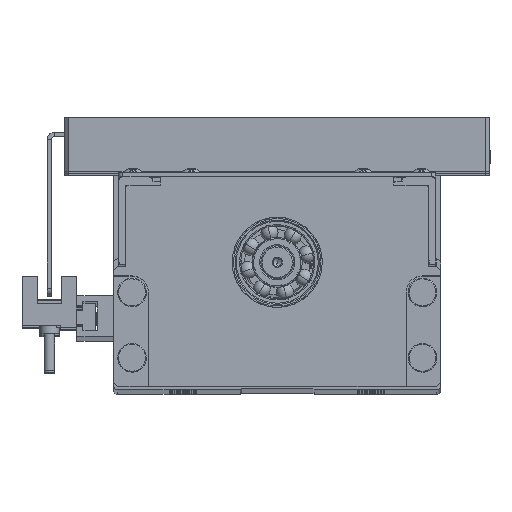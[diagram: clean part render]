
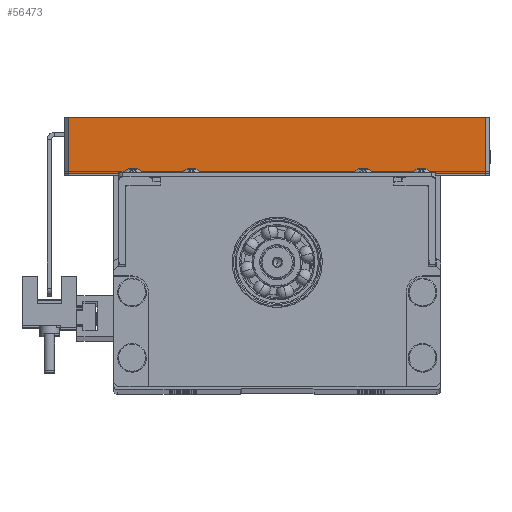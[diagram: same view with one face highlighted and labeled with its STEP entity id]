
A CAD part, top view. The second image highlights one B-rep face of the part: STEP entity #56473.
In plain terms, the highlighted planar face has unit normal (0, 0, 1).
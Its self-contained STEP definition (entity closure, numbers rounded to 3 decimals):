
#775 = DIRECTION ( 'NONE',  ( 0., -1., 0. ) ) ;
#3564 = VECTOR ( 'NONE', #25573, 1000. ) ;
#7272 = CARTESIAN_POINT ( 'NONE',  ( 52., 68., 50. ) ) ;
#7422 = LINE ( 'NONE', #69017, #69224 ) ;
#7822 = ORIENTED_EDGE ( 'NONE', *, *, #43400, .T. ) ;
#10990 = DIRECTION ( 'NONE',  ( 1., 0., 0. ) ) ;
#12375 = EDGE_CURVE ( 'NONE', #70837, #23631, #25999, .T. ) ;
#12701 = ORIENTED_EDGE ( 'NONE', *, *, #12375, .F. ) ;
#18964 = FACE_OUTER_BOUND ( 'NONE', #79105, .T. ) ;
#22938 = VERTEX_POINT ( 'NONE', #85678 ) ;
#23631 = VERTEX_POINT ( 'NONE', #78269 ) ;
#24106 = ORIENTED_EDGE ( 'NONE', *, *, #29616, .F. ) ;
#24412 = VERTEX_POINT ( 'NONE', #42604 ) ;
#25573 = DIRECTION ( 'NONE',  ( -1., 0., 0. ) ) ;
#25999 = LINE ( 'NONE', #86213, #3564 ) ;
#29616 = EDGE_CURVE ( 'NONE', #24412, #22938, #39717, .T. ) ;
#36834 = CARTESIAN_POINT ( 'NONE',  ( 51., 68., 50. ) ) ;
#38521 = CARTESIAN_POINT ( 'NONE',  ( 0., 68., 50. ) ) ;
#39717 = LINE ( 'NONE', #7272, #79758 ) ;
#39727 = VECTOR ( 'NONE', #43941, 1000. ) ;
#42604 = CARTESIAN_POINT ( 'NONE',  ( -51., 68., 50. ) ) ;
#43400 = EDGE_CURVE ( 'NONE', #70837, #22938, #70457, .T. ) ;
#43941 = DIRECTION ( 'NONE',  ( 0., 1., 0. ) ) ;
#48996 = CARTESIAN_POINT ( 'NONE',  ( 51., 54.3, 50. ) ) ;
#54735 = DIRECTION ( 'NONE',  ( 1., 0., 0. ) ) ;
#56473 = ADVANCED_FACE ( 'NONE', ( #18964 ), #85011, .T. ) ;
#57433 = AXIS2_PLACEMENT_3D ( 'NONE', #38521, #65491, #10990 ) ;
#65491 = DIRECTION ( 'NONE',  ( 0., 0., 1. ) ) ;
#69017 = CARTESIAN_POINT ( 'NONE',  ( -51., 54.3, 50. ) ) ;
#69224 = VECTOR ( 'NONE', #775, 1000. ) ;
#70457 = LINE ( 'NONE', #36834, #39727 ) ;
#70837 = VERTEX_POINT ( 'NONE', #48996 ) ;
#75655 = ORIENTED_EDGE ( 'NONE', *, *, #87520, .T. ) ;
#78269 = CARTESIAN_POINT ( 'NONE',  ( -51., 54.3, 50. ) ) ;
#79105 = EDGE_LOOP ( 'NONE', ( #12701, #7822, #24106, #75655 ) ) ;
#79758 = VECTOR ( 'NONE', #54735, 1000. ) ;
#85011 = PLANE ( 'NONE',  #57433 ) ;
#85678 = CARTESIAN_POINT ( 'NONE',  ( 51., 68., 50. ) ) ;
#86213 = CARTESIAN_POINT ( 'NONE',  ( -52., 54.3, 50. ) ) ;
#87520 = EDGE_CURVE ( 'NONE', #24412, #23631, #7422, .T. ) ;
